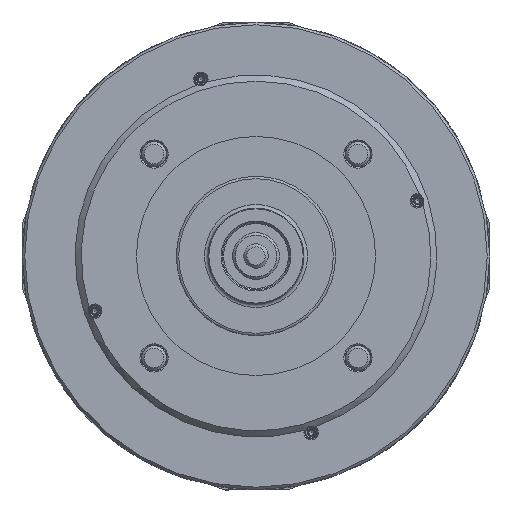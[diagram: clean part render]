
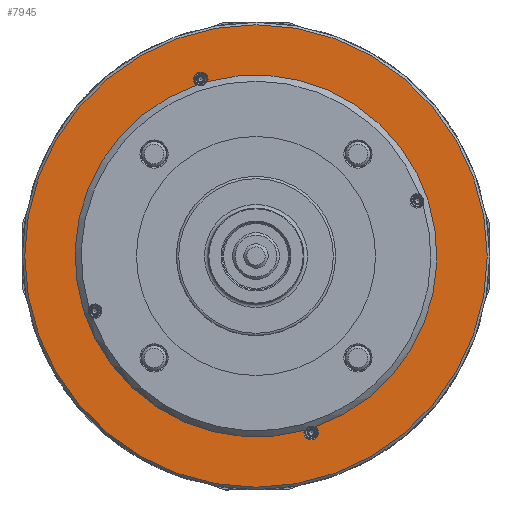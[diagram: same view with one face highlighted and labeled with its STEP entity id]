
A CAD part, left-side view. The second image highlights one B-rep face of the part: STEP entity #7945.
In plain terms, the highlighted planar face has unit normal (-1, 0, 0).
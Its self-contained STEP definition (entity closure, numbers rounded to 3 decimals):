
#5936 = DIRECTION ( 'NONE',  ( 0., 0., -1. ) ) ;
#6339 = AXIS2_PLACEMENT_3D ( 'NONE', #125142, #76638, #105307 ) ;
#6823 = DIRECTION ( 'NONE',  ( 1., 0., 0. ) ) ;
#7945 = ADVANCED_FACE ( 'NONE', ( #115650, #106062 ), #18653, .F. ) ;
#10948 = ORIENTED_EDGE ( 'NONE', *, *, #31110, .F. ) ;
#16143 = CARTESIAN_POINT ( 'NONE',  ( -130., -45., -144. ) ) ;
#16545 = CIRCLE ( 'NONE', #6339, 147.5 ) ;
#18653 = PLANE ( 'NONE',  #114355 ) ;
#18875 = ORIENTED_EDGE ( 'NONE', *, *, #94176, .T. ) ;
#19644 = ORIENTED_EDGE ( 'NONE', *, *, #104968, .T. ) ;
#20309 = ORIENTED_EDGE ( 'NONE', *, *, #103160, .T. ) ;
#21969 = AXIS2_PLACEMENT_3D ( 'NONE', #16143, #25110, #5936 ) ;
#25110 = DIRECTION ( 'NONE',  ( 1., 0., 0. ) ) ;
#27611 = DIRECTION ( 'NONE',  ( 0., 0., -1. ) ) ;
#27985 = CARTESIAN_POINT ( 'NONE',  ( -130., 0., -188.5 ) ) ;
#30743 = DIRECTION ( 'NONE',  ( 1., 0., 0. ) ) ;
#31110 = EDGE_CURVE ( 'NONE', #76519, #76519, #119757, .T. ) ;
#32094 = AXIS2_PLACEMENT_3D ( 'NONE', #38998, #97050, #86859 ) ;
#38998 = CARTESIAN_POINT ( 'NONE',  ( -130., 0., 0. ) ) ;
#42267 = CIRCLE ( 'NONE', #21969, 5.9 ) ;
#46373 = CARTESIAN_POINT ( 'NONE',  ( -130., 48.544, 139.283 ) ) ;
#47040 = CARTESIAN_POINT ( 'NONE',  ( -130., 0., 0. ) ) ;
#57885 = VERTEX_POINT ( 'NONE', #83197 ) ;
#60257 = CARTESIAN_POINT ( 'NONE',  ( -130., -48.544, -139.283 ) ) ;
#60629 = CIRCLE ( 'NONE', #93220, 147.5 ) ;
#73793 = CARTESIAN_POINT ( 'NONE',  ( -130., 39.401, 142.14 ) ) ;
#76519 = VERTEX_POINT ( 'NONE', #27985 ) ;
#76638 = DIRECTION ( 'NONE',  ( 1., 0., 0. ) ) ;
#80345 = CIRCLE ( 'NONE', #108846, 5.9 ) ;
#83197 = CARTESIAN_POINT ( 'NONE',  ( -130., -39.401, -142.14 ) ) ;
#86859 = DIRECTION ( 'NONE',  ( 0., 0., -1. ) ) ;
#88817 = DIRECTION ( 'NONE',  ( 0., 0., -1. ) ) ;
#88931 = VERTEX_POINT ( 'NONE', #60257 ) ;
#92394 = EDGE_LOOP ( 'NONE', ( #19644, #18875, #102114, #20309 ) ) ;
#93220 = AXIS2_PLACEMENT_3D ( 'NONE', #47040, #6823, #95512 ) ;
#93344 = CARTESIAN_POINT ( 'NONE',  ( -130., 45., 144. ) ) ;
#94176 = EDGE_CURVE ( 'NONE', #88931, #57885, #42267, .T. ) ;
#95512 = DIRECTION ( 'NONE',  ( 0., 0., -1. ) ) ;
#97050 = DIRECTION ( 'NONE',  ( 1., 0., 0. ) ) ;
#99099 = VERTEX_POINT ( 'NONE', #46373 ) ;
#99904 = EDGE_CURVE ( 'NONE', #57885, #99099, #16545, .T. ) ;
#102114 = ORIENTED_EDGE ( 'NONE', *, *, #99904, .T. ) ;
#103160 = EDGE_CURVE ( 'NONE', #99099, #116862, #80345, .T. ) ;
#104968 = EDGE_CURVE ( 'NONE', #116862, #88931, #60629, .T. ) ;
#105307 = DIRECTION ( 'NONE',  ( 0., 0., -1. ) ) ;
#106062 = FACE_BOUND ( 'NONE', #92394, .T. ) ;
#107942 = CARTESIAN_POINT ( 'NONE',  ( -130., -147.5, 0. ) ) ;
#108271 = EDGE_LOOP ( 'NONE', ( #10948 ) ) ;
#108846 = AXIS2_PLACEMENT_3D ( 'NONE', #93344, #115047, #27611 ) ;
#114355 = AXIS2_PLACEMENT_3D ( 'NONE', #107942, #30743, #88817 ) ;
#115047 = DIRECTION ( 'NONE',  ( 1., 0., 0. ) ) ;
#115650 = FACE_OUTER_BOUND ( 'NONE', #108271, .T. ) ;
#116862 = VERTEX_POINT ( 'NONE', #73793 ) ;
#119757 = CIRCLE ( 'NONE', #32094, 188.5 ) ;
#125142 = CARTESIAN_POINT ( 'NONE',  ( -130., 0., 0. ) ) ;
